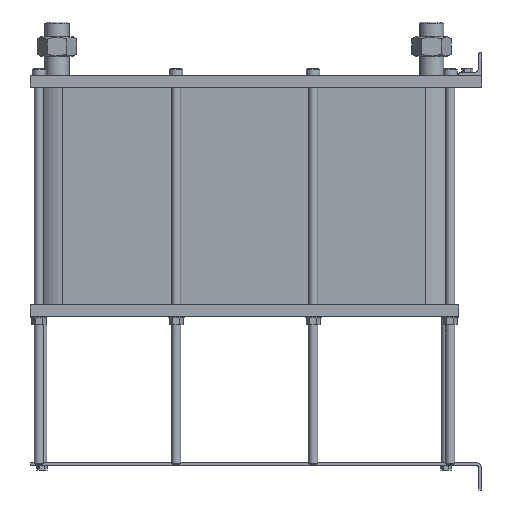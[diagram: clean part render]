
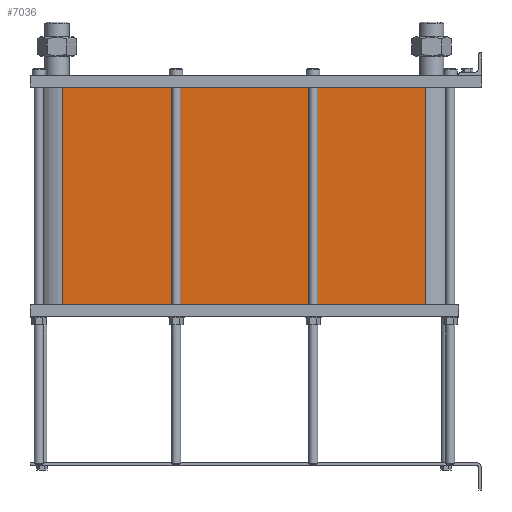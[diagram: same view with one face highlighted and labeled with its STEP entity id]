
A CAD part, left-side view. The second image highlights one B-rep face of the part: STEP entity #7036.
In plain terms, the highlighted planar face has unit normal (-1, 0, 0).
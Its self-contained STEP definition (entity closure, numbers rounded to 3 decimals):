
#999=LINE('',#15640,#1553);
#1031=LINE('',#15723,#1585);
#1032=LINE('',#15726,#1586);
#1033=LINE('',#15727,#1587);
#1553=VECTOR('',#9658,10.);
#1585=VECTOR('',#9736,10.);
#1586=VECTOR('',#9741,10.);
#1587=VECTOR('',#9742,10.);
#2117=FACE_OUTER_BOUND('',#2671,.T.);
#2671=EDGE_LOOP('',(#6246,#6247,#6248,#6249));
#3527=VERTEX_POINT('',#15634);
#3529=VERTEX_POINT('',#15638);
#3556=VERTEX_POINT('',#15720);
#3557=VERTEX_POINT('',#15722);
#4425=EDGE_CURVE('',#3529,#3527,#999,.T.);
#4466=EDGE_CURVE('',#3557,#3556,#1031,.T.);
#4468=EDGE_CURVE('',#3527,#3556,#1032,.T.);
#4469=EDGE_CURVE('',#3557,#3529,#1033,.T.);
#6246=ORIENTED_EDGE('',*,*,#4468,.F.);
#6247=ORIENTED_EDGE('',*,*,#4425,.F.);
#6248=ORIENTED_EDGE('',*,*,#4469,.F.);
#6249=ORIENTED_EDGE('',*,*,#4466,.T.);
#6608=PLANE('',#7812);
#7036=ADVANCED_FACE('',(#2117),#6608,.T.);
#7812=AXIS2_PLACEMENT_3D('',#15725,#9739,#9740);
#9658=DIRECTION('',(0.,0.,-1.));
#9736=DIRECTION('',(0.,0.,-1.));
#9739=DIRECTION('center_axis',(-1.,0.,0.));
#9740=DIRECTION('ref_axis',(0.,1.,0.));
#9741=DIRECTION('',(0.,1.,0.));
#9742=DIRECTION('',(0.,-1.,0.));
#15634=CARTESIAN_POINT('',(-72.,97.5,-381.3));
#15638=CARTESIAN_POINT('',(-72.,97.5,0.));
#15640=CARTESIAN_POINT('',(-72.,97.5,0.));
#15720=CARTESIAN_POINT('',(-72.,733.5,-381.3));
#15722=CARTESIAN_POINT('',(-72.,733.5,0.));
#15723=CARTESIAN_POINT('',(-72.,733.5,0.));
#15725=CARTESIAN_POINT('Origin',(-72.,97.5,0.));
#15726=CARTESIAN_POINT('',(-72.,256.5,-381.3));
#15727=CARTESIAN_POINT('',(-72.,733.5,0.));
